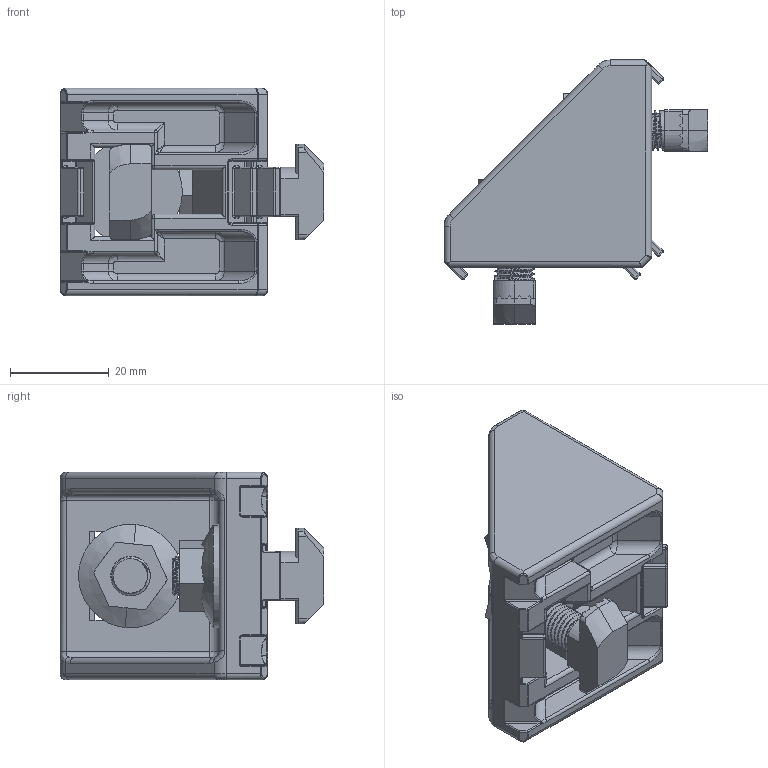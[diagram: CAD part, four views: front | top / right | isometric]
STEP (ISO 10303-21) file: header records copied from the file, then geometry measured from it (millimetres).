
FILE_DESCRIPTION (( 'STEP AP203' ), '1' );
FILE_NAME ('32105101_Winkel 45x45 T-Nut mit Bef.-Satz.step', '2022-04-07T09:41:14', ( '' ), ( '' ), 'SwSTEP 2.0', 'SolidWorks 2021', '' );
FILE_SCHEMA (( 'CONFIG_CONTROL_DESIGN' ));
Length unit declared in the file: millimetre
Products named in the file (4): 32105101_Winkel 45x45 T-Nut mit Bef.-Satz; 32105100 Winkel 45x45 T-Nut; 999307 Bundmutter M8 Ø21; 999315 Hammerschraube M8x25
Assembly tree (5 placements, depth 2):
  32105101_Winkel 45x45 T-Nut mit Bef.-Satz
    32105100 Winkel 45x45 T-Nut
    999315 Hammerschraube M8x25  x2
    999307 Bundmutter M8 Ø21  x2
Bounding box: 53.4 x 53.4 x 42 mm (x, y, z)
Volume: 28947.6 mm3; surface area: 17924 mm2
Topology: 5 solids, 5 shells, 907 faces, 2299 edges, 1358 vertices
Faces by surface type: cylinder 459, plane 209, bspline 201, torus 24, cone 14
Entity records: 31409 total; most frequent: CARTESIAN_POINT 15251, ORIENTED_EDGE 3610, DIRECTION 2963, EDGE_CURVE 1805, AXIS2_PLACEMENT_3D 1096, VERTEX_POINT 1062, LINE 771, VECTOR 771
